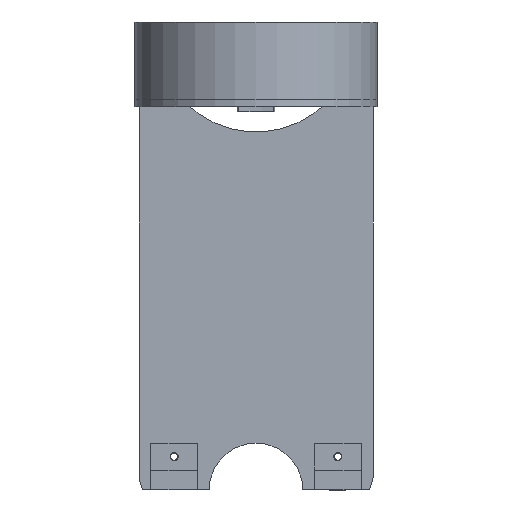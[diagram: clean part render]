
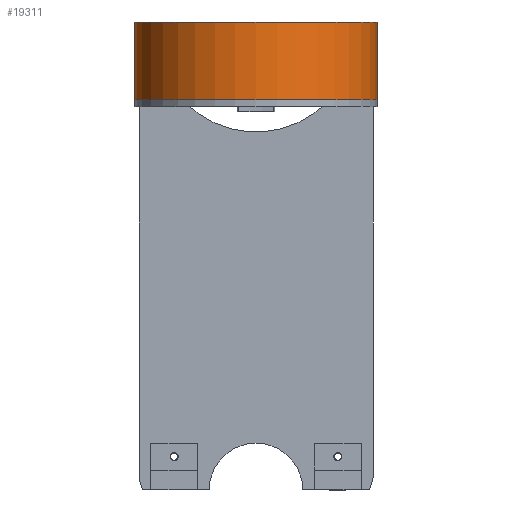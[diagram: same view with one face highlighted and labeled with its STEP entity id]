
A CAD part, front view. The second image highlights one B-rep face of the part: STEP entity #19311.
In plain terms, the highlighted cylindrical face has radius 51.75 mm (diameter 103.5 mm), a partial arc.
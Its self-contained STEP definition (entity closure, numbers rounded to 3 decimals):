
#82 = FACE_OUTER_BOUND ( 'NONE', #16992, .T. ) ;
#522 = DIRECTION ( 'NONE',  ( 0., 0., -1. ) ) ;
#1093 = DIRECTION ( 'NONE',  ( 1., 0., 0. ) ) ;
#2962 = DIRECTION ( 'NONE',  ( -1., 0., 0. ) ) ;
#3586 = EDGE_CURVE ( 'NONE', #19893, #21504, #30012, .T. ) ;
#4629 = LINE ( 'NONE', #12124, #9516 ) ;
#4987 = CIRCLE ( 'NONE', #8525, 51.75 ) ;
#6818 = ORIENTED_EDGE ( 'NONE', *, *, #26809, .F. ) ;
#6988 = VERTEX_POINT ( 'NONE', #24246 ) ;
#7020 = EDGE_CURVE ( 'NONE', #6988, #9679, #4987, .T. ) ;
#7184 = DIRECTION ( 'NONE',  ( 1., 0., 0. ) ) ;
#8216 = LINE ( 'NONE', #20166, #27979 ) ;
#8525 = AXIS2_PLACEMENT_3D ( 'NONE', #15017, #22086, #1093 ) ;
#8955 = AXIS2_PLACEMENT_3D ( 'NONE', #28193, #20819, #7184 ) ;
#9422 = CYLINDRICAL_SURFACE ( 'NONE', #22464, 51.75 ) ;
#9516 = VECTOR ( 'NONE', #21481, 1000. ) ;
#9679 = VERTEX_POINT ( 'NONE', #23437 ) ;
#12124 = CARTESIAN_POINT ( 'NONE',  ( -51.75, 0., 16.65 ) ) ;
#12822 = CARTESIAN_POINT ( 'NONE',  ( -51.75, 0., 16.65 ) ) ;
#15017 = CARTESIAN_POINT ( 'NONE',  ( 0., 0., -16.65 ) ) ;
#16839 = ORIENTED_EDGE ( 'NONE', *, *, #30026, .T. ) ;
#16992 = EDGE_LOOP ( 'NONE', ( #6818, #23368, #16839, #21412 ) ) ;
#19311 = ADVANCED_FACE ( 'NONE', ( #82 ), #9422, .T. ) ;
#19893 = VERTEX_POINT ( 'NONE', #12822 ) ;
#20166 = CARTESIAN_POINT ( 'NONE',  ( 51.75, 0., 16.65 ) ) ;
#20819 = DIRECTION ( 'NONE',  ( 0., 0., 1. ) ) ;
#21412 = ORIENTED_EDGE ( 'NONE', *, *, #7020, .T. ) ;
#21481 = DIRECTION ( 'NONE',  ( 0., 0., -1. ) ) ;
#21504 = VERTEX_POINT ( 'NONE', #28263 ) ;
#22086 = DIRECTION ( 'NONE',  ( 0., 0., 1. ) ) ;
#22323 = DIRECTION ( 'NONE',  ( 0., 0., -1. ) ) ;
#22464 = AXIS2_PLACEMENT_3D ( 'NONE', #28584, #522, #2962 ) ;
#23368 = ORIENTED_EDGE ( 'NONE', *, *, #3586, .F. ) ;
#23437 = CARTESIAN_POINT ( 'NONE',  ( 51.75, 0., -16.65 ) ) ;
#24246 = CARTESIAN_POINT ( 'NONE',  ( -51.75, 0., -16.65 ) ) ;
#26809 = EDGE_CURVE ( 'NONE', #21504, #9679, #8216, .T. ) ;
#27979 = VECTOR ( 'NONE', #22323, 1000. ) ;
#28193 = CARTESIAN_POINT ( 'NONE',  ( 0., 0., 16.65 ) ) ;
#28263 = CARTESIAN_POINT ( 'NONE',  ( 51.75, 0., 16.65 ) ) ;
#28584 = CARTESIAN_POINT ( 'NONE',  ( 0., 0., 16.65 ) ) ;
#30012 = CIRCLE ( 'NONE', #8955, 51.75 ) ;
#30026 = EDGE_CURVE ( 'NONE', #19893, #6988, #4629, .T. ) ;
